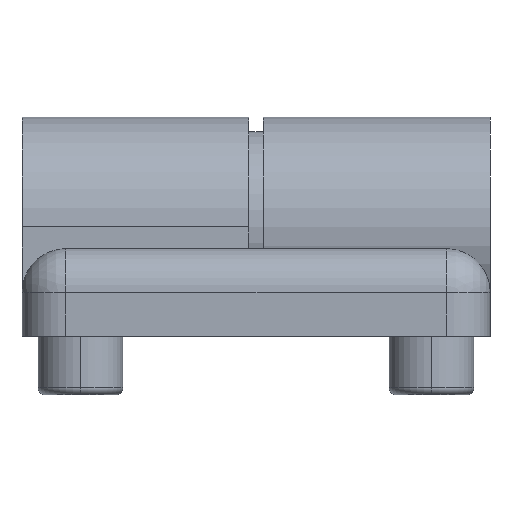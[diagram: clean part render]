
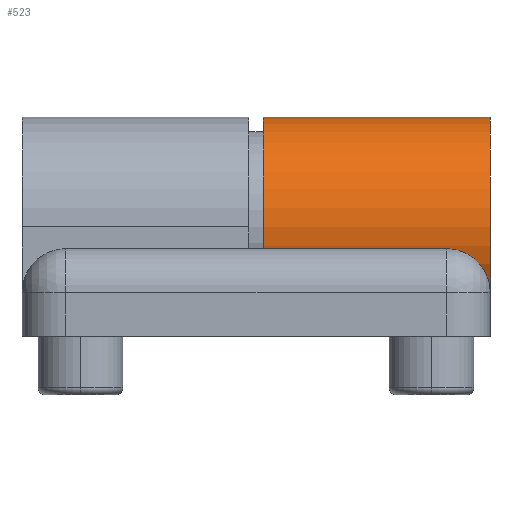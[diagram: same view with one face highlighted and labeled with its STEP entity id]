
A CAD part, left-side view. The second image highlights one B-rep face of the part: STEP entity #523.
In plain terms, the highlighted cylindrical face has radius 7.5 mm (diameter 15 mm), a partial arc.
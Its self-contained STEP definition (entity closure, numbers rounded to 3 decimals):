
#29 = ORIENTED_EDGE ( 'NONE', *, *, #1720, .F. ) ;
#75 = CARTESIAN_POINT ( 'NONE',  ( 0., 0., 0. ) ) ;
#93 = LINE ( 'NONE', #1455, #1477 ) ;
#148 = AXIS2_PLACEMENT_3D ( 'NONE', #371, #1295, #509 ) ;
#200 = VECTOR ( 'NONE', #1200, 1000. ) ;
#218 = DIRECTION ( 'NONE',  ( 0., 0., 1. ) ) ;
#258 = AXIS2_PLACEMENT_3D ( 'NONE', #983, #722, #328 ) ;
#287 = VERTEX_POINT ( 'NONE', #1223 ) ;
#328 = DIRECTION ( 'NONE',  ( 0., 0., -1. ) ) ;
#371 = CARTESIAN_POINT ( 'NONE',  ( 0., 15.5, 0. ) ) ;
#419 = CARTESIAN_POINT ( 'NONE',  ( 7.5, 15.5, 0. ) ) ;
#509 = DIRECTION ( 'NONE',  ( 0., 0., 1. ) ) ;
#523 = ADVANCED_FACE ( 'NONE', ( #1662 ), #590, .T. ) ;
#569 = CARTESIAN_POINT ( 'NONE',  ( 7.5, 15.5, 0. ) ) ;
#590 = CYLINDRICAL_SURFACE ( 'NONE', #258, 7.5 ) ;
#651 = DIRECTION ( 'NONE',  ( 0., -1., 0. ) ) ;
#722 = DIRECTION ( 'NONE',  ( 0., -1., 0. ) ) ;
#803 = EDGE_CURVE ( 'NONE', #287, #804, #998, .T. ) ;
#804 = VERTEX_POINT ( 'NONE', #1682 ) ;
#855 = CIRCLE ( 'NONE', #148, 7.5 ) ;
#928 = ORIENTED_EDGE ( 'NONE', *, *, #1259, .F. ) ;
#983 = CARTESIAN_POINT ( 'NONE',  ( 0., 15.5, 0. ) ) ;
#998 = CIRCLE ( 'NONE', #1424, 7.5 ) ;
#1007 = DIRECTION ( 'NONE',  ( 0., 1., 0. ) ) ;
#1016 = CARTESIAN_POINT ( 'NONE',  ( 0., 15.5, -7.5 ) ) ;
#1057 = VERTEX_POINT ( 'NONE', #1016 ) ;
#1144 = EDGE_CURVE ( 'NONE', #1057, #287, #93, .T. ) ;
#1145 = EDGE_LOOP ( 'NONE', ( #1345, #928, #29, #1251 ) ) ;
#1200 = DIRECTION ( 'NONE',  ( 0., -1., 0. ) ) ;
#1220 = LINE ( 'NONE', #419, #200 ) ;
#1223 = CARTESIAN_POINT ( 'NONE',  ( 0., 0., -7.5 ) ) ;
#1251 = ORIENTED_EDGE ( 'NONE', *, *, #1144, .T. ) ;
#1259 = EDGE_CURVE ( 'NONE', #1443, #804, #1220, .T. ) ;
#1295 = DIRECTION ( 'NONE',  ( 0., 1., 0. ) ) ;
#1345 = ORIENTED_EDGE ( 'NONE', *, *, #803, .T. ) ;
#1424 = AXIS2_PLACEMENT_3D ( 'NONE', #75, #1007, #218 ) ;
#1443 = VERTEX_POINT ( 'NONE', #569 ) ;
#1455 = CARTESIAN_POINT ( 'NONE',  ( 0., 15.5, -7.5 ) ) ;
#1477 = VECTOR ( 'NONE', #651, 1000. ) ;
#1662 = FACE_OUTER_BOUND ( 'NONE', #1145, .T. ) ;
#1682 = CARTESIAN_POINT ( 'NONE',  ( 7.5, 0., 0. ) ) ;
#1720 = EDGE_CURVE ( 'NONE', #1057, #1443, #855, .T. ) ;
